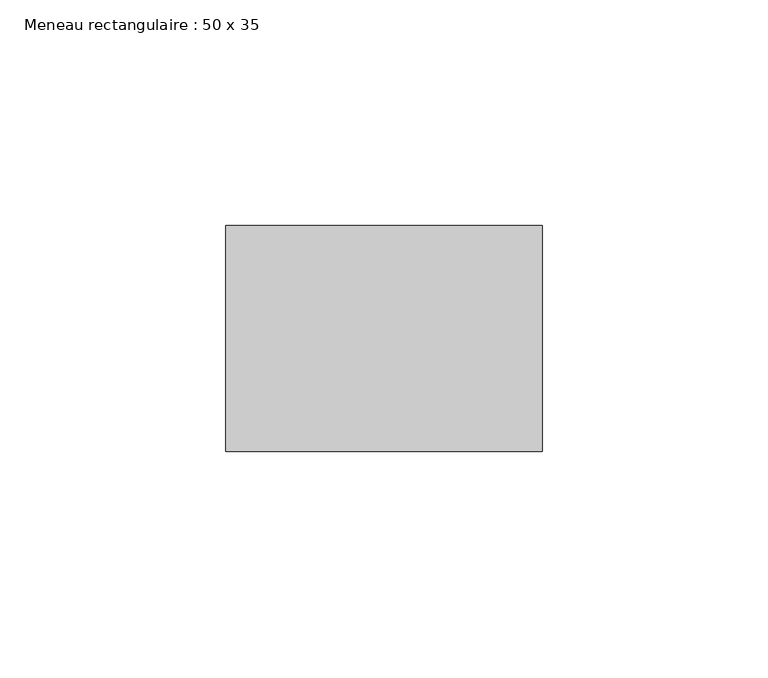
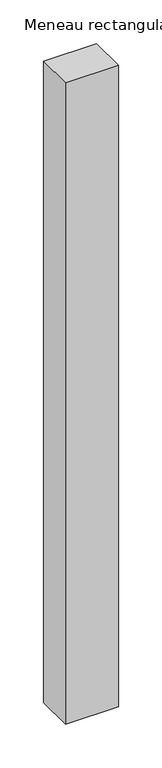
"""IFC4 building model written with IfcOpenShell, lengths in millimetres: member geometry, Meneau rectangulaire : 50 x 35."""

from ifc_helpers import new_model, si_unit, frame, origin, place, context, project, spatial, polyline, outline, extrude, source, transform, mapped, element, save


def meneau_rectangulaire_50_x_35_ddabb20a(model_context):
    return source(origin(), model_context, "Body", "SweptSolid", [
        extrude(outline(polyline([(0.0, 0.0), (0.0, -50.0), (-70.0, -50.0), (-70.0, 0.0), (0.0, 0.0)])), frame((0.0, 0.0, -896.0), z_axis=(0.0, 0.0, 1.0), x_axis=(1.0, 0.0, 0.0)), (0.0, 0.0, 1.0), 896.0),
    ])


if __name__ == "__main__":
    model = new_model("IFC4")
    model_context = context("Model", 3, world=origin())
    ifc_project = project(units=[si_unit("LENGTHUNIT", "METRE", prefix="MILLI")], contexts=[model_context])
    site = spatial("IfcSite", under=ifc_project)
    building = spatial("IfcBuilding", under=site)
    placement = place(None, origin())
    meneau_rectangulaire_50_x_35_shape = meneau_rectangulaire_50_x_35_ddabb20a(model_context)
    element("IfcMember", 1, ObjectType="Meneau rectangulaire : 50 x 35", at=placement, inside=building, context=model_context, shape_type="MappedRepresentation", body=[
        mapped(meneau_rectangulaire_50_x_35_shape, transform((0.0, 0.0, 0.0), x_axis=(1.0, 0.0, 0.0), y_axis=(0.0, 1.0, 0.0), z_axis=(0.0, 0.0, 1.0))),
    ])
    save(model, "model.ifc")
